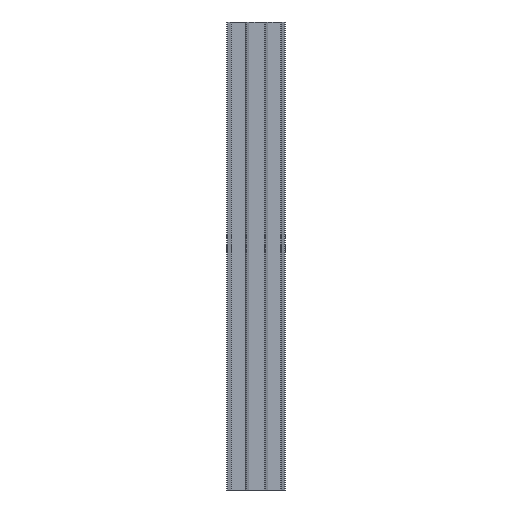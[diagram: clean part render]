
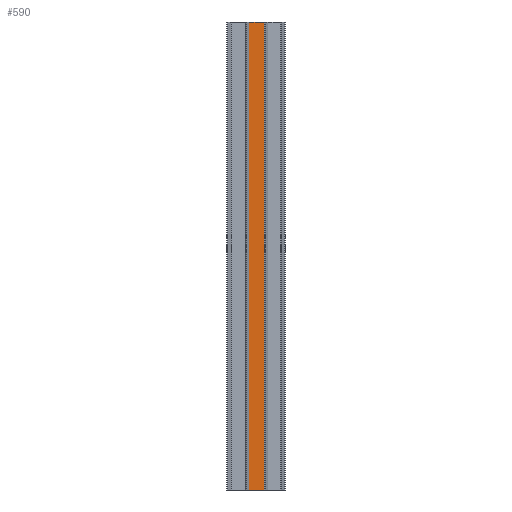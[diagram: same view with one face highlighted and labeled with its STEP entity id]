
A CAD part, left-side view. The second image highlights one B-rep face of the part: STEP entity #590.
In plain terms, the highlighted planar face has unit normal (-1, 0, 0).
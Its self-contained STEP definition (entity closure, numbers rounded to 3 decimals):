
#56 = ORIENTED_EDGE ( 'NONE', *, *, #1340, .F. ) ;
#77 = EDGE_CURVE ( 'NONE', #1296, #168, #1154, .T. ) ;
#81 = CARTESIAN_POINT ( 'NONE',  ( -1.75, -4.728, 100. ) ) ;
#88 = EDGE_CURVE ( 'NONE', #1229, #168, #211, .T. ) ;
#90 = DIRECTION ( 'NONE',  ( 0., -1., 0. ) ) ;
#143 = AXIS2_PLACEMENT_3D ( 'NONE', #81, #199, #1336 ) ;
#168 = VERTEX_POINT ( 'NONE', #1060 ) ;
#193 = ORIENTED_EDGE ( 'NONE', *, *, #77, .F. ) ;
#196 = VECTOR ( 'NONE', #896, 1000. ) ;
#199 = DIRECTION ( 'NONE',  ( 1., 0., 0. ) ) ;
#211 = LINE ( 'NONE', #578, #1285 ) ;
#227 = CARTESIAN_POINT ( 'NONE',  ( -1.75, -4.728, 100. ) ) ;
#263 = CARTESIAN_POINT ( 'NONE',  ( -1.75, -4.728, 0. ) ) ;
#437 = DIRECTION ( 'NONE',  ( 0., 0., -1. ) ) ;
#522 = CARTESIAN_POINT ( 'NONE',  ( -1.75, -8., 100. ) ) ;
#540 = VECTOR ( 'NONE', #90, 1000. ) ;
#578 = CARTESIAN_POINT ( 'NONE',  ( -1.75, -4.728, 0. ) ) ;
#590 = ADVANCED_FACE ( 'NONE', ( #910 ), #712, .F. ) ;
#647 = ORIENTED_EDGE ( 'NONE', *, *, #88, .T. ) ;
#712 = PLANE ( 'NONE',  #143 ) ;
#806 = LINE ( 'NONE', #1016, #540 ) ;
#859 = EDGE_LOOP ( 'NONE', ( #647, #193, #56, #1320 ) ) ;
#864 = VERTEX_POINT ( 'NONE', #976 ) ;
#896 = DIRECTION ( 'NONE',  ( 0., 0., -1. ) ) ;
#910 = FACE_OUTER_BOUND ( 'NONE', #859, .T. ) ;
#976 = CARTESIAN_POINT ( 'NONE',  ( -1.75, -4.728, 100. ) ) ;
#1016 = CARTESIAN_POINT ( 'NONE',  ( -1.75, -4.728, 100. ) ) ;
#1056 = EDGE_CURVE ( 'NONE', #864, #1229, #1259, .T. ) ;
#1060 = CARTESIAN_POINT ( 'NONE',  ( -1.75, -8., 0. ) ) ;
#1154 = LINE ( 'NONE', #1300, #196 ) ;
#1229 = VERTEX_POINT ( 'NONE', #263 ) ;
#1259 = LINE ( 'NONE', #227, #1313 ) ;
#1261 = DIRECTION ( 'NONE',  ( 0., -1., 0. ) ) ;
#1285 = VECTOR ( 'NONE', #1261, 1000. ) ;
#1296 = VERTEX_POINT ( 'NONE', #522 ) ;
#1300 = CARTESIAN_POINT ( 'NONE',  ( -1.75, -8., 100. ) ) ;
#1313 = VECTOR ( 'NONE', #437, 1000. ) ;
#1320 = ORIENTED_EDGE ( 'NONE', *, *, #1056, .T. ) ;
#1336 = DIRECTION ( 'NONE',  ( 0., 1., 0. ) ) ;
#1340 = EDGE_CURVE ( 'NONE', #864, #1296, #806, .T. ) ;
